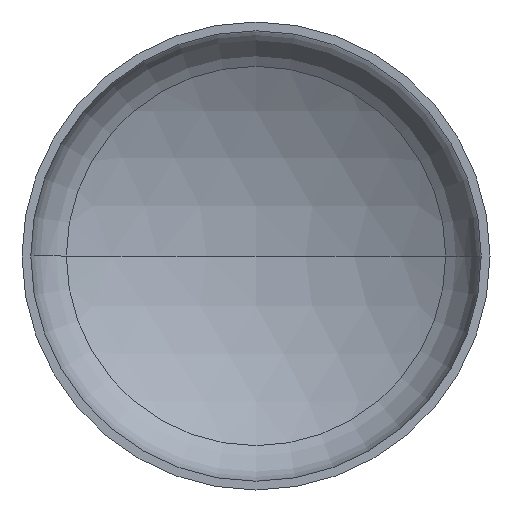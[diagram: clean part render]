
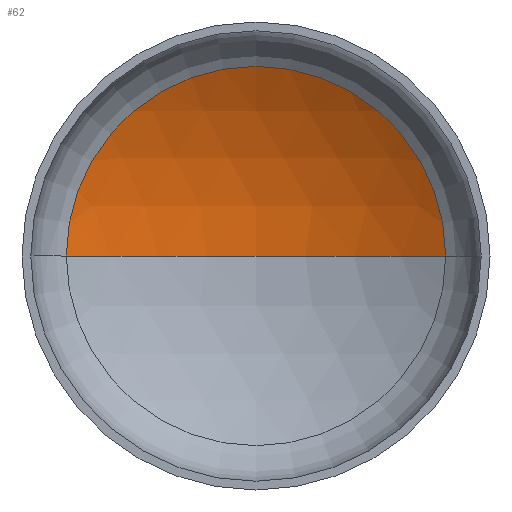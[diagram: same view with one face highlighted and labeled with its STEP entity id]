
A CAD part, front view. The second image highlights one B-rep face of the part: STEP entity #62.
In plain terms, the highlighted spherical face has radius 4000 mm.
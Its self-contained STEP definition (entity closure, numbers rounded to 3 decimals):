
#5 = AXIS2_PLACEMENT_3D ( 'NONE', #163, #148, #166 ) ;
#13 = FACE_OUTER_BOUND ( 'NONE', #173, .T. ) ;
#29 = ORIENTED_EDGE ( 'NONE', *, *, #75, .T. ) ;
#36 = AXIS2_PLACEMENT_3D ( 'NONE', #244, #245, #218 ) ;
#37 = AXIS2_PLACEMENT_3D ( 'NONE', #82, #277, #274 ) ;
#55 = AXIS2_PLACEMENT_3D ( 'NONE', #157, #226, #99 ) ;
#62 = ADVANCED_FACE ( 'NONE', ( #13 ), #133, .F. ) ;
#75 = EDGE_CURVE ( 'NONE', #83, #267, #347, .T. ) ;
#78 = EDGE_CURVE ( 'NONE', #315, #83, #282, .T. ) ;
#82 = CARTESIAN_POINT ( 'NONE',  ( 0., 763.924, 0. ) ) ;
#83 = VERTEX_POINT ( 'NONE', #285 ) ;
#87 = CARTESIAN_POINT ( 'NONE',  ( -2026.006, 763.924, 0. ) ) ;
#99 = DIRECTION ( 'NONE',  ( -1., 0., 0. ) ) ;
#133 = SPHERICAL_SURFACE ( 'NONE', #55, 4000. ) ;
#148 = DIRECTION ( 'NONE',  ( 0., 0., 1. ) ) ;
#157 = CARTESIAN_POINT ( 'NONE',  ( 0., -2685.032, 0. ) ) ;
#163 = CARTESIAN_POINT ( 'NONE',  ( 0., -2685.032, 0. ) ) ;
#166 = DIRECTION ( 'NONE',  ( 1., 0., 0. ) ) ;
#173 = EDGE_LOOP ( 'NONE', ( #273, #177, #29 ) ) ;
#177 = ORIENTED_EDGE ( 'NONE', *, *, #78, .T. ) ;
#218 = DIRECTION ( 'NONE',  ( -1., 0., 0. ) ) ;
#226 = DIRECTION ( 'NONE',  ( 0., 0., -1. ) ) ;
#244 = CARTESIAN_POINT ( 'NONE',  ( 0., -2685.032, 0. ) ) ;
#245 = DIRECTION ( 'NONE',  ( 0., 0., -1. ) ) ;
#248 = CIRCLE ( 'NONE', #5, 4000. ) ;
#262 = CARTESIAN_POINT ( 'NONE',  ( 0., 1314.968, 0. ) ) ;
#267 = VERTEX_POINT ( 'NONE', #87 ) ;
#273 = ORIENTED_EDGE ( 'NONE', *, *, #343, .F. ) ;
#274 = DIRECTION ( 'NONE',  ( 1., 0., 0. ) ) ;
#277 = DIRECTION ( 'NONE',  ( 0., -1., 0. ) ) ;
#282 = CIRCLE ( 'NONE', #36, 4000. ) ;
#285 = CARTESIAN_POINT ( 'NONE',  ( 2026.006, 763.924, 0. ) ) ;
#315 = VERTEX_POINT ( 'NONE', #262 ) ;
#343 = EDGE_CURVE ( 'NONE', #315, #267, #248, .T. ) ;
#347 = CIRCLE ( 'NONE', #37, 2026.006 ) ;
